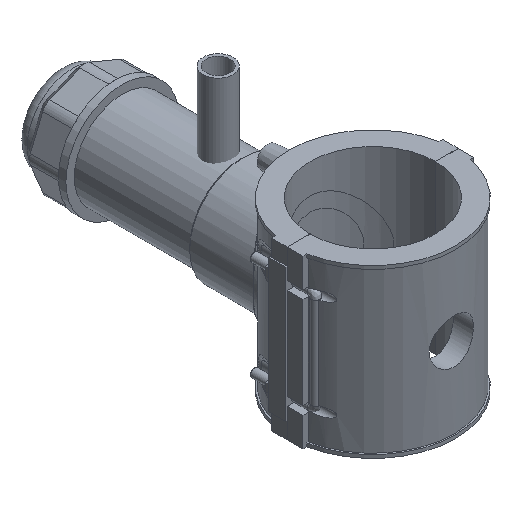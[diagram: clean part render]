
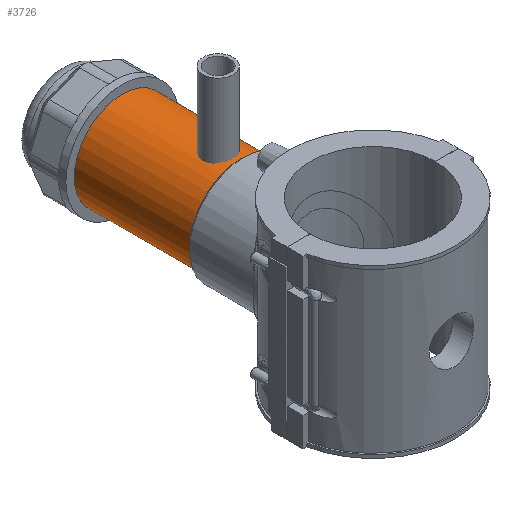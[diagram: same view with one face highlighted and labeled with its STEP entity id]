
A CAD part, isometric view. The second image highlights one B-rep face of the part: STEP entity #3726.
In plain terms, the highlighted cylindrical face has radius 33.928 mm (diameter 67.856 mm), a full revolution.
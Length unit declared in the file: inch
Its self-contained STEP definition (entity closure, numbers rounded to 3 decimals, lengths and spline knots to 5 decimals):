
#317=CIRCLE('',#4055,1.33574);
#318=CIRCLE('',#4056,1.33574);
#333=CIRCLE('',#4087,1.33574);
#334=CIRCLE('',#4088,1.33574);
#548=FACE_OUTER_BOUND('',#774,.T.);
#774=EDGE_LOOP('',(#3440,#3441,#3442,#3443,#3444,#3445));
#1100=LINE('',#7836,#1420);
#1420=VECTOR('',#5091,1.33574);
#1818=VERTEX_POINT('',#7770);
#1819=VERTEX_POINT('',#7771);
#1835=VERTEX_POINT('',#7832);
#1836=VERTEX_POINT('',#7833);
#2345=EDGE_CURVE('',#1818,#1819,#317,.T.);
#2346=EDGE_CURVE('',#1819,#1818,#318,.T.);
#2374=EDGE_CURVE('',#1835,#1836,#333,.T.);
#2375=EDGE_CURVE('',#1836,#1835,#334,.T.);
#2376=EDGE_CURVE('',#1836,#1819,#1100,.T.);
#3440=ORIENTED_EDGE('',*,*,#2374,.F.);
#3441=ORIENTED_EDGE('',*,*,#2375,.F.);
#3442=ORIENTED_EDGE('',*,*,#2376,.T.);
#3443=ORIENTED_EDGE('',*,*,#2346,.T.);
#3444=ORIENTED_EDGE('',*,*,#2345,.T.);
#3445=ORIENTED_EDGE('',*,*,#2376,.F.);
#3525=CYLINDRICAL_SURFACE('',#4086,1.33574);
#3726=ADVANCED_FACE('',(#548),#3525,.T.);
#4055=AXIS2_PLACEMENT_3D('',#7772,#5010,#5011);
#4056=AXIS2_PLACEMENT_3D('',#7773,#5012,#5013);
#4086=AXIS2_PLACEMENT_3D('',#7831,#5085,#5086);
#4087=AXIS2_PLACEMENT_3D('',#7834,#5087,#5088);
#4088=AXIS2_PLACEMENT_3D('',#7835,#5089,#5090);
#5010=DIRECTION('center_axis',(0.,1.,0.));
#5011=DIRECTION('ref_axis',(1.,0.,0.));
#5012=DIRECTION('center_axis',(0.,1.,0.));
#5013=DIRECTION('ref_axis',(1.,0.,0.));
#5085=DIRECTION('center_axis',(0.,1.,0.));
#5086=DIRECTION('ref_axis',(0.,0.,1.));
#5087=DIRECTION('center_axis',(0.,1.,0.));
#5088=DIRECTION('ref_axis',(1.,0.,0.));
#5089=DIRECTION('center_axis',(0.,1.,0.));
#5090=DIRECTION('ref_axis',(1.,0.,0.));
#5091=DIRECTION('',(0.,-1.,0.));
#7770=CARTESIAN_POINT('',(0.,3.67447,1.33574));
#7771=CARTESIAN_POINT('',(0.,3.67447,-1.33574));
#7772=CARTESIAN_POINT('Origin',(0.,3.67447,0.));
#7773=CARTESIAN_POINT('Origin',(0.,3.67447,0.));
#7831=CARTESIAN_POINT('Origin',(0.,5.32402,0.));
#7832=CARTESIAN_POINT('',(0.,6.97356,1.33574));
#7833=CARTESIAN_POINT('',(0.,6.97356,-1.33574));
#7834=CARTESIAN_POINT('Origin',(0.,6.97356,0.));
#7835=CARTESIAN_POINT('Origin',(0.,6.97356,0.));
#7836=CARTESIAN_POINT('',(0.,5.32402,-1.33574));
